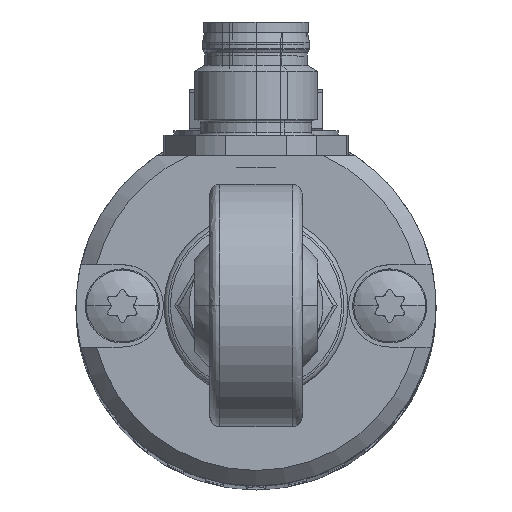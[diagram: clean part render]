
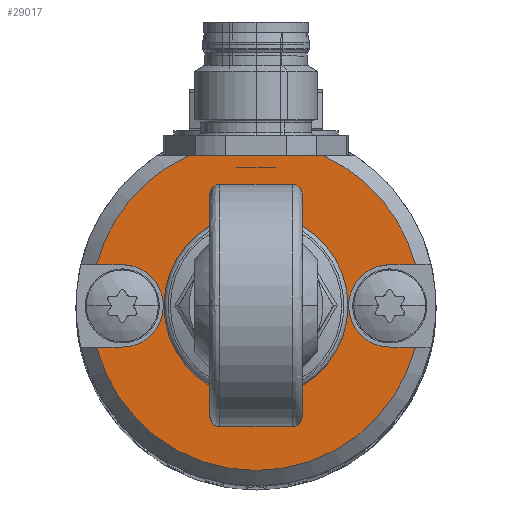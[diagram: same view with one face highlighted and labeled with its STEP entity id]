
A CAD part, top view. The second image highlights one B-rep face of the part: STEP entity #29017.
In plain terms, the highlighted planar face has unit normal (0, 0, 1).
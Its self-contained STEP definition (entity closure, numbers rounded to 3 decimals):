
#12209 = CARTESIAN_POINT ( 'NONE',  ( 0., 4.3, 205.7 ) ) ;
#12341 = CIRCLE ( 'NONE', #12393, 4.3 ) ;
#12389 = CARTESIAN_POINT ( 'NONE',  ( 0., -4.3, 205.7 ) ) ;
#12390 = DIRECTION ( 'NONE',  ( 0., -1., 0. ) ) ;
#12391 = DIRECTION ( 'NONE',  ( 0., 0., 1. ) ) ;
#12392 = CARTESIAN_POINT ( 'NONE',  ( 0., 0., 205.7 ) ) ;
#12393 = AXIS2_PLACEMENT_3D ( 'NONE', #12392, #12391, #12390 ) ;
#12482 = CARTESIAN_POINT ( 'NONE',  ( 6.545, 14.6, 205.7 ) ) ;
#12483 = DIRECTION ( 'NONE',  ( 0., 1., 0. ) ) ;
#12484 = DIRECTION ( 'NONE',  ( 0., 0., 1. ) ) ;
#12485 = CARTESIAN_POINT ( 'NONE',  ( 0., 0., 205.7 ) ) ;
#12486 = AXIS2_PLACEMENT_3D ( 'NONE', #12485, #12484, #12483 ) ;
#12487 = CIRCLE ( 'NONE', #12486, 16. ) ;
#12488 = CARTESIAN_POINT ( 'NONE',  ( 15.492, 4., 205.7 ) ) ;
#12489 = DIRECTION ( 'NONE',  ( 1., 0., 0. ) ) ;
#12490 = VECTOR ( 'NONE', #12489, 1000. ) ;
#12491 = CARTESIAN_POINT ( 'NONE',  ( 0., 4., 205.7 ) ) ;
#12492 = LINE ( 'NONE', #12491, #12490 ) ;
#12493 = CARTESIAN_POINT ( 'NONE',  ( 13., -4., 205.7 ) ) ;
#12494 = DIRECTION ( 'NONE',  ( 1., 0., 0. ) ) ;
#12495 = VECTOR ( 'NONE', #12494, 1000. ) ;
#12496 = CARTESIAN_POINT ( 'NONE',  ( 13., -4., 205.7 ) ) ;
#12497 = LINE ( 'NONE', #12496, #12495 ) ;
#12498 = CARTESIAN_POINT ( 'NONE',  ( 15.492, -4., 205.7 ) ) ;
#12499 = DIRECTION ( 'NONE',  ( 0., 1., 0. ) ) ;
#12500 = DIRECTION ( 'NONE',  ( 0., 0., 1. ) ) ;
#12501 = CARTESIAN_POINT ( 'NONE',  ( 0., 0., 205.7 ) ) ;
#12502 = AXIS2_PLACEMENT_3D ( 'NONE', #12501, #12500, #12499 ) ;
#12503 = CIRCLE ( 'NONE', #12502, 16. ) ;
#12504 = CARTESIAN_POINT ( 'NONE',  ( -15.492, -4., 205.7 ) ) ;
#12505 = DIRECTION ( 'NONE',  ( -1., 0., 0. ) ) ;
#12506 = VECTOR ( 'NONE', #12505, 1000. ) ;
#12507 = CARTESIAN_POINT ( 'NONE',  ( 0., -4., 205.7 ) ) ;
#12508 = LINE ( 'NONE', #12507, #12506 ) ;
#12525 = FACE_OUTER_BOUND ( 'NONE', #29022, .T. ) ;
#12526 = FACE_BOUND ( 'NONE', #29018, .T. ) ;
#12533 = DIRECTION ( 'NONE',  ( -1., 0., 0. ) ) ;
#12534 = VECTOR ( 'NONE', #12533, 1000. ) ;
#12535 = CARTESIAN_POINT ( 'NONE',  ( -20., 4., 205.7 ) ) ;
#12536 = LINE ( 'NONE', #12535, #12534 ) ;
#12537 = CARTESIAN_POINT ( 'NONE',  ( -15.492, 4., 205.7 ) ) ;
#12538 = DIRECTION ( 'NONE',  ( 0., 1., 0. ) ) ;
#12539 = DIRECTION ( 'NONE',  ( 0., 0., 1. ) ) ;
#12540 = CARTESIAN_POINT ( 'NONE',  ( 0., 0., 205.7 ) ) ;
#12541 = AXIS2_PLACEMENT_3D ( 'NONE', #12540, #12539, #12538 ) ;
#12542 = CIRCLE ( 'NONE', #12541, 16. ) ;
#12543 = CARTESIAN_POINT ( 'NONE',  ( -6.545, 14.6, 205.7 ) ) ;
#12544 = DIRECTION ( 'NONE',  ( -1., 0., 0. ) ) ;
#12545 = VECTOR ( 'NONE', #12544, 1000. ) ;
#12546 = CARTESIAN_POINT ( 'NONE',  ( 0., 14.6, 205.7 ) ) ;
#12547 = LINE ( 'NONE', #12546, #12545 ) ;
#12564 = CARTESIAN_POINT ( 'NONE',  ( 13., 4., 205.7 ) ) ;
#12565 = DIRECTION ( 'NONE',  ( 0., -1., 0. ) ) ;
#12566 = DIRECTION ( 'NONE',  ( 0., 0., 1. ) ) ;
#12567 = CARTESIAN_POINT ( 'NONE',  ( 0., 0., 205.7 ) ) ;
#12568 = AXIS2_PLACEMENT_3D ( 'NONE', #12567, #12566, #12565 ) ;
#12569 = DIRECTION ( 'NONE',  ( 0., 1., 0. ) ) ;
#12570 = DIRECTION ( 'NONE',  ( 0., 0., -1. ) ) ;
#12571 = CARTESIAN_POINT ( 'NONE',  ( 0., 0., 205.7 ) ) ;
#12572 = AXIS2_PLACEMENT_3D ( 'NONE', #12571, #12570, #12569 ) ;
#12573 = CIRCLE ( 'NONE', #12568, 4.3 ) ;
#12574 = PLANE ( 'NONE',  #12572 ) ;
#12695 = DIRECTION ( 'NONE',  ( 0., -1., 0. ) ) ;
#12696 = DIRECTION ( 'NONE',  ( 0., 0., 1. ) ) ;
#12697 = CARTESIAN_POINT ( 'NONE',  ( 13., 0., 205.7 ) ) ;
#12698 = AXIS2_PLACEMENT_3D ( 'NONE', #12697, #12696, #12695 ) ;
#12704 = CIRCLE ( 'NONE', #12698, 4. ) ;
#12706 = CARTESIAN_POINT ( 'NONE',  ( -13., -4., 205.7 ) ) ;
#12707 = DIRECTION ( 'NONE',  ( 0., -1., 0. ) ) ;
#12708 = DIRECTION ( 'NONE',  ( 0., 0., 1. ) ) ;
#12709 = CARTESIAN_POINT ( 'NONE',  ( -13., 0., 205.7 ) ) ;
#12710 = AXIS2_PLACEMENT_3D ( 'NONE', #12709, #12708, #12707 ) ;
#12711 = CIRCLE ( 'NONE', #12710, 4. ) ;
#12712 = CARTESIAN_POINT ( 'NONE',  ( -13., 4., 205.7 ) ) ;
#28880 = VERTEX_POINT ( 'NONE', #12209 ) ;
#28938 = EDGE_CURVE ( 'NONE', #28880, #28939, #12341, .T. ) ;
#28939 = VERTEX_POINT ( 'NONE', #12389 ) ;
#28988 = EDGE_CURVE ( 'NONE', #29068, #28989, #12508, .T. ) ;
#28989 = VERTEX_POINT ( 'NONE', #12504 ) ;
#28990 = ORIENTED_EDGE ( 'NONE', *, *, #28991, .T. ) ;
#28991 = EDGE_CURVE ( 'NONE', #28989, #28992, #12503, .T. ) ;
#28992 = VERTEX_POINT ( 'NONE', #12498 ) ;
#28993 = ORIENTED_EDGE ( 'NONE', *, *, #28994, .F. ) ;
#28994 = EDGE_CURVE ( 'NONE', #28995, #28992, #12497, .T. ) ;
#28995 = VERTEX_POINT ( 'NONE', #12493 ) ;
#28996 = ORIENTED_EDGE ( 'NONE', *, *, #29051, .F. ) ;
#28997 = ORIENTED_EDGE ( 'NONE', *, *, #28998, .T. ) ;
#28998 = EDGE_CURVE ( 'NONE', #29023, #28999, #12492, .T. ) ;
#28999 = VERTEX_POINT ( 'NONE', #12488 ) ;
#29000 = ORIENTED_EDGE ( 'NONE', *, *, #29001, .T. ) ;
#29001 = EDGE_CURVE ( 'NONE', #28999, #29002, #12487, .T. ) ;
#29002 = VERTEX_POINT ( 'NONE', #12482 ) ;
#29003 = ORIENTED_EDGE ( 'NONE', *, *, #29004, .T. ) ;
#29004 = EDGE_CURVE ( 'NONE', #29002, #29005, #12547, .T. ) ;
#29005 = VERTEX_POINT ( 'NONE', #12543 ) ;
#29006 = ORIENTED_EDGE ( 'NONE', *, *, #29007, .T. ) ;
#29007 = EDGE_CURVE ( 'NONE', #29005, #29008, #12542, .T. ) ;
#29008 = VERTEX_POINT ( 'NONE', #12537 ) ;
#29009 = ORIENTED_EDGE ( 'NONE', *, *, #29010, .F. ) ;
#29010 = EDGE_CURVE ( 'NONE', #29065, #29008, #12536, .T. ) ;
#29017 = ADVANCED_FACE ( 'NONE', ( #12526, #12525 ), #12574, .F. ) ;
#29018 = EDGE_LOOP ( 'NONE', ( #29019, #29021 ) ) ;
#29019 = ORIENTED_EDGE ( 'NONE', *, *, #29020, .F. ) ;
#29020 = EDGE_CURVE ( 'NONE', #28939, #28880, #12573, .T. ) ;
#29021 = ORIENTED_EDGE ( 'NONE', *, *, #28938, .F. ) ;
#29022 = EDGE_LOOP ( 'NONE', ( #28997, #29000, #29003, #29006, #29009, #29066, #29069, #28990, #28993, #28996 ) ) ;
#29023 = VERTEX_POINT ( 'NONE', #12564 ) ;
#29051 = EDGE_CURVE ( 'NONE', #29023, #28995, #12704, .T. ) ;
#29065 = VERTEX_POINT ( 'NONE', #12712 ) ;
#29066 = ORIENTED_EDGE ( 'NONE', *, *, #29067, .F. ) ;
#29067 = EDGE_CURVE ( 'NONE', #29068, #29065, #12711, .T. ) ;
#29068 = VERTEX_POINT ( 'NONE', #12706 ) ;
#29069 = ORIENTED_EDGE ( 'NONE', *, *, #28988, .T. ) ;
